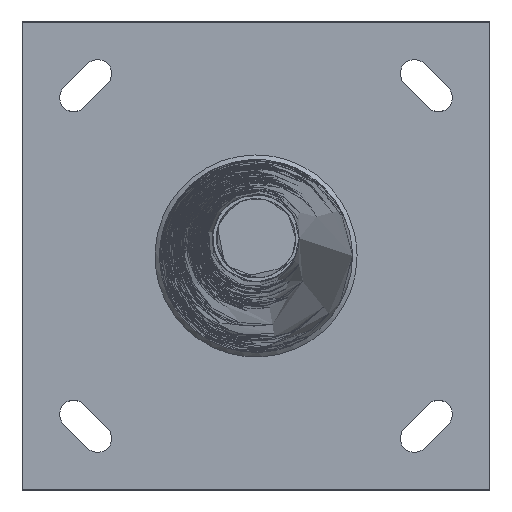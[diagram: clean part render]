
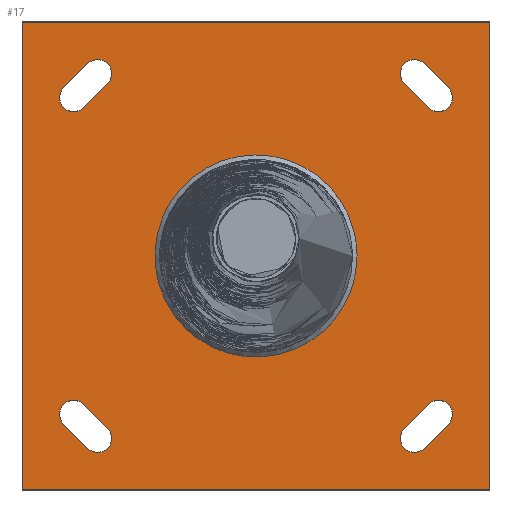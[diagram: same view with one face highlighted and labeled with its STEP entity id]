
A CAD part, top view. The second image highlights one B-rep face of the part: STEP entity #17.
In plain terms, the highlighted planar face has unit normal (0, 0, 1).
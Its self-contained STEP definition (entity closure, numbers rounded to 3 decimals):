
#17 = ADVANCED_FACE('',(#18,#57,#91,#127,#163,#199),#235,.T.);
#18 = FACE_BOUND('',#19,.T.);
#19 = EDGE_LOOP('',(#20));
#20 = ORIENTED_EDGE('',*,*,#21,.T.);
#21 = EDGE_CURVE('',#22,#22,#24,.T.);
#22 = VERTEX_POINT('',#23);
#23 = CARTESIAN_POINT('',(88.974,0.,5.));
#24 = B_SPLINE_CURVE_WITH_KNOTS('',11,(#25,#26,#27,#28,#29,#30,#31,#32,
    #33,#34,#35,#36,#37,#38,#39,#40,#41,#42,#43,#44,#45,#46,#47,#48,#49,
    #50,#51,#52,#53,#54,#55,#56),.UNSPECIFIED.,.T.,.F.,(12,10,10,12),(
    0.,133.53,267.007,533.907),
  .UNSPECIFIED.);
#25 = CARTESIAN_POINT('',(88.974,0.,5.));
#26 = CARTESIAN_POINT('',(88.974,-12.711,5.
    ));
#27 = CARTESIAN_POINT('',(86.977,-25.421,5.)
  );
#28 = CARTESIAN_POINT('',(82.982,-37.782,5.
    ));
#29 = CARTESIAN_POINT('',(77.058,-49.451,5.
    ));
#30 = CARTESIAN_POINT('',(69.343,-60.076,5.
    ));
#31 = CARTESIAN_POINT('',(60.037,-69.384,5.
    ));
#32 = CARTESIAN_POINT('',(49.398,-77.088,5.)
  );
#33 = CARTESIAN_POINT('',(37.731,-83.006,5.
    ));
#34 = CARTESIAN_POINT('',(25.366,-86.993,5.
    ));
#35 = CARTESIAN_POINT('',(12.654,-88.982,5.));
#36 = CARTESIAN_POINT('',(-12.762,-88.966,5.));
#37 = CARTESIAN_POINT('',(-25.466,-86.962,5.
    ));
#38 = CARTESIAN_POINT('',(-37.82,-82.963,5.
    ));
#39 = CARTESIAN_POINT('',(-49.477,-77.037,5.)
  );
#40 = CARTESIAN_POINT('',(-60.103,-69.32,5.
    ));
#41 = CARTESIAN_POINT('',(-69.396,-60.016,5.
    ));
#42 = CARTESIAN_POINT('',(-77.099,-49.38,5.
    ));
#43 = CARTESIAN_POINT('',(-83.011,-37.716,5.)
  );
#44 = CARTESIAN_POINT('',(-86.994,-25.356,5.
    ));
#45 = CARTESIAN_POINT('',(-88.982,-12.649,5.));
#46 = CARTESIAN_POINT('',(-88.958,25.462,5.));
#47 = CARTESIAN_POINT('',(-80.962,50.863,5.
    ));
#48 = CARTESIAN_POINT('',(-64.988,73.474,5.
    ));
#49 = CARTESIAN_POINT('',(-42.131,90.509,5.
    ));
#50 = CARTESIAN_POINT('',(-14.579,99.68,5.
    ));
#51 = CARTESIAN_POINT('',(14.642,99.67,5.
    ));
#52 = CARTESIAN_POINT('',(42.189,90.483,5.
    ));
#53 = CARTESIAN_POINT('',(65.034,73.433,5.)
  );
#54 = CARTESIAN_POINT('',(80.995,50.811,5.
    ));
#55 = CARTESIAN_POINT('',(88.974,25.406,5.));
#56 = CARTESIAN_POINT('',(88.974,0.,5.));
#57 = FACE_BOUND('',#58,.T.);
#58 = EDGE_LOOP('',(#59,#69,#77,#85));
#59 = ORIENTED_EDGE('',*,*,#60,.T.);
#60 = EDGE_CURVE('',#61,#63,#65,.T.);
#61 = VERTEX_POINT('',#62);
#62 = CARTESIAN_POINT('',(-206.,206.,5.));
#63 = VERTEX_POINT('',#64);
#64 = CARTESIAN_POINT('',(-206.,-206.,5.));
#65 = LINE('',#66,#67);
#66 = CARTESIAN_POINT('',(-206.,206.,5.));
#67 = VECTOR('',#68,1.);
#68 = DIRECTION('',(0.,-1.,0.));
#69 = ORIENTED_EDGE('',*,*,#70,.T.);
#70 = EDGE_CURVE('',#63,#71,#73,.T.);
#71 = VERTEX_POINT('',#72);
#72 = CARTESIAN_POINT('',(206.,-206.,5.));
#73 = LINE('',#74,#75);
#74 = CARTESIAN_POINT('',(-206.,-206.,5.));
#75 = VECTOR('',#76,1.);
#76 = DIRECTION('',(1.,0.,0.));
#77 = ORIENTED_EDGE('',*,*,#78,.T.);
#78 = EDGE_CURVE('',#71,#79,#81,.T.);
#79 = VERTEX_POINT('',#80);
#80 = CARTESIAN_POINT('',(206.,206.,5.));
#81 = LINE('',#82,#83);
#82 = CARTESIAN_POINT('',(206.,-206.,5.));
#83 = VECTOR('',#84,1.);
#84 = DIRECTION('',(0.,1.,0.));
#85 = ORIENTED_EDGE('',*,*,#86,.T.);
#86 = EDGE_CURVE('',#79,#61,#87,.T.);
#87 = LINE('',#88,#89);
#88 = CARTESIAN_POINT('',(206.,206.,5.));
#89 = VECTOR('',#90,1.);
#90 = DIRECTION('',(-1.,0.,0.));
#91 = FACE_BOUND('',#92,.T.);
#92 = EDGE_LOOP('',(#93,#104,#112,#121));
#93 = ORIENTED_EDGE('',*,*,#94,.F.);
#94 = EDGE_CURVE('',#95,#97,#99,.T.);
#95 = VERTEX_POINT('',#96);
#96 = CARTESIAN_POINT('',(-151.768,-130.555,5.));
#97 = VERTEX_POINT('',#98);
#98 = CARTESIAN_POINT('',(-169.445,-148.232,5.));
#99 = CIRCLE('',#100,12.5);
#100 = AXIS2_PLACEMENT_3D('',#101,#102,#103);
#101 = CARTESIAN_POINT('',(-160.607,-139.393,5.));
#102 = DIRECTION('',(0.,-0.,1.));
#103 = DIRECTION('',(0.,1.,0.));
#104 = ORIENTED_EDGE('',*,*,#105,.T.);
#105 = EDGE_CURVE('',#95,#106,#108,.T.);
#106 = VERTEX_POINT('',#107);
#107 = CARTESIAN_POINT('',(-130.555,-151.768,5.));
#108 = LINE('',#109,#110);
#109 = CARTESIAN_POINT('',(-151.768,-130.555,5.));
#110 = VECTOR('',#111,1.);
#111 = DIRECTION('',(0.707,-0.707,0.));
#112 = ORIENTED_EDGE('',*,*,#113,.F.);
#113 = EDGE_CURVE('',#114,#106,#116,.T.);
#114 = VERTEX_POINT('',#115);
#115 = CARTESIAN_POINT('',(-148.232,-169.445,5.));
#116 = CIRCLE('',#117,12.5);
#117 = AXIS2_PLACEMENT_3D('',#118,#119,#120);
#118 = CARTESIAN_POINT('',(-139.393,-160.607,5.));
#119 = DIRECTION('',(0.,-0.,1.));
#120 = DIRECTION('',(0.,1.,0.));
#121 = ORIENTED_EDGE('',*,*,#122,.F.);
#122 = EDGE_CURVE('',#97,#114,#123,.T.);
#123 = LINE('',#124,#125);
#124 = CARTESIAN_POINT('',(-169.445,-148.232,5.));
#125 = VECTOR('',#126,1.);
#126 = DIRECTION('',(0.707,-0.707,0.));
#127 = FACE_BOUND('',#128,.T.);
#128 = EDGE_LOOP('',(#129,#140,#148,#157));
#129 = ORIENTED_EDGE('',*,*,#130,.F.);
#130 = EDGE_CURVE('',#131,#133,#135,.T.);
#131 = VERTEX_POINT('',#132);
#132 = CARTESIAN_POINT('',(130.555,-151.768,5.));
#133 = VERTEX_POINT('',#134);
#134 = CARTESIAN_POINT('',(148.232,-169.445,5.));
#135 = CIRCLE('',#136,12.5);
#136 = AXIS2_PLACEMENT_3D('',#137,#138,#139);
#137 = CARTESIAN_POINT('',(139.393,-160.607,5.));
#138 = DIRECTION('',(0.,0.,1.));
#139 = DIRECTION('',(-1.,0.,0.));
#140 = ORIENTED_EDGE('',*,*,#141,.T.);
#141 = EDGE_CURVE('',#131,#142,#144,.T.);
#142 = VERTEX_POINT('',#143);
#143 = CARTESIAN_POINT('',(151.768,-130.555,5.));
#144 = LINE('',#145,#146);
#145 = CARTESIAN_POINT('',(130.555,-151.768,5.));
#146 = VECTOR('',#147,1.);
#147 = DIRECTION('',(0.707,0.707,0.));
#148 = ORIENTED_EDGE('',*,*,#149,.F.);
#149 = EDGE_CURVE('',#150,#142,#152,.T.);
#150 = VERTEX_POINT('',#151);
#151 = CARTESIAN_POINT('',(169.445,-148.232,5.));
#152 = CIRCLE('',#153,12.5);
#153 = AXIS2_PLACEMENT_3D('',#154,#155,#156);
#154 = CARTESIAN_POINT('',(160.607,-139.393,5.));
#155 = DIRECTION('',(0.,0.,1.));
#156 = DIRECTION('',(-1.,0.,0.));
#157 = ORIENTED_EDGE('',*,*,#158,.F.);
#158 = EDGE_CURVE('',#133,#150,#159,.T.);
#159 = LINE('',#160,#161);
#160 = CARTESIAN_POINT('',(148.232,-169.445,5.));
#161 = VECTOR('',#162,1.);
#162 = DIRECTION('',(0.707,0.707,0.));
#163 = FACE_BOUND('',#164,.T.);
#164 = EDGE_LOOP('',(#165,#176,#184,#193));
#165 = ORIENTED_EDGE('',*,*,#166,.F.);
#166 = EDGE_CURVE('',#167,#169,#171,.T.);
#167 = VERTEX_POINT('',#168);
#168 = CARTESIAN_POINT('',(-130.555,151.768,5.));
#169 = VERTEX_POINT('',#170);
#170 = CARTESIAN_POINT('',(-148.232,169.445,5.));
#171 = CIRCLE('',#172,12.5);
#172 = AXIS2_PLACEMENT_3D('',#173,#174,#175);
#173 = CARTESIAN_POINT('',(-139.393,160.607,5.));
#174 = DIRECTION('',(0.,0.,1.));
#175 = DIRECTION('',(1.,0.,0.));
#176 = ORIENTED_EDGE('',*,*,#177,.T.);
#177 = EDGE_CURVE('',#167,#178,#180,.T.);
#178 = VERTEX_POINT('',#179);
#179 = CARTESIAN_POINT('',(-151.768,130.555,5.));
#180 = LINE('',#181,#182);
#181 = CARTESIAN_POINT('',(-130.555,151.768,5.));
#182 = VECTOR('',#183,1.);
#183 = DIRECTION('',(-0.707,-0.707,0.));
#184 = ORIENTED_EDGE('',*,*,#185,.F.);
#185 = EDGE_CURVE('',#186,#178,#188,.T.);
#186 = VERTEX_POINT('',#187);
#187 = CARTESIAN_POINT('',(-169.445,148.232,5.));
#188 = CIRCLE('',#189,12.5);
#189 = AXIS2_PLACEMENT_3D('',#190,#191,#192);
#190 = CARTESIAN_POINT('',(-160.607,139.393,5.));
#191 = DIRECTION('',(0.,0.,1.));
#192 = DIRECTION('',(1.,0.,0.));
#193 = ORIENTED_EDGE('',*,*,#194,.F.);
#194 = EDGE_CURVE('',#169,#186,#195,.T.);
#195 = LINE('',#196,#197);
#196 = CARTESIAN_POINT('',(-148.232,169.445,5.));
#197 = VECTOR('',#198,1.);
#198 = DIRECTION('',(-0.707,-0.707,0.));
#199 = FACE_BOUND('',#200,.T.);
#200 = EDGE_LOOP('',(#201,#212,#220,#229));
#201 = ORIENTED_EDGE('',*,*,#202,.F.);
#202 = EDGE_CURVE('',#203,#205,#207,.T.);
#203 = VERTEX_POINT('',#204);
#204 = CARTESIAN_POINT('',(151.768,130.555,5.));
#205 = VERTEX_POINT('',#206);
#206 = CARTESIAN_POINT('',(169.445,148.232,5.));
#207 = CIRCLE('',#208,12.5);
#208 = AXIS2_PLACEMENT_3D('',#209,#210,#211);
#209 = CARTESIAN_POINT('',(160.607,139.393,5.));
#210 = DIRECTION('',(0.,0.,1.));
#211 = DIRECTION('',(0.,-1.,0.));
#212 = ORIENTED_EDGE('',*,*,#213,.T.);
#213 = EDGE_CURVE('',#203,#214,#216,.T.);
#214 = VERTEX_POINT('',#215);
#215 = CARTESIAN_POINT('',(130.555,151.768,5.));
#216 = LINE('',#217,#218);
#217 = CARTESIAN_POINT('',(151.768,130.555,5.));
#218 = VECTOR('',#219,1.);
#219 = DIRECTION('',(-0.707,0.707,0.));
#220 = ORIENTED_EDGE('',*,*,#221,.F.);
#221 = EDGE_CURVE('',#222,#214,#224,.T.);
#222 = VERTEX_POINT('',#223);
#223 = CARTESIAN_POINT('',(148.232,169.445,5.));
#224 = CIRCLE('',#225,12.5);
#225 = AXIS2_PLACEMENT_3D('',#226,#227,#228);
#226 = CARTESIAN_POINT('',(139.393,160.607,5.));
#227 = DIRECTION('',(0.,0.,1.));
#228 = DIRECTION('',(0.,-1.,0.));
#229 = ORIENTED_EDGE('',*,*,#230,.F.);
#230 = EDGE_CURVE('',#205,#222,#231,.T.);
#231 = LINE('',#232,#233);
#232 = CARTESIAN_POINT('',(169.445,148.232,5.));
#233 = VECTOR('',#234,1.);
#234 = DIRECTION('',(-0.707,0.707,0.));
#235 = PLANE('',#236);
#236 = AXIS2_PLACEMENT_3D('',#237,#238,#239);
#237 = CARTESIAN_POINT('',(0.,0.,5.));
#238 = DIRECTION('',(0.,0.,1.));
#239 = DIRECTION('',(1.,0.,0.));
